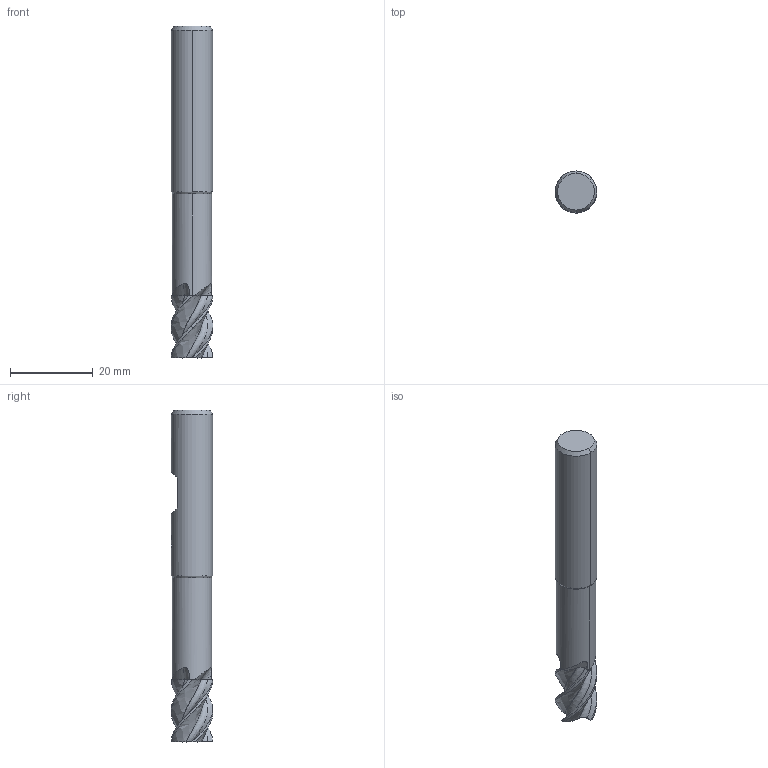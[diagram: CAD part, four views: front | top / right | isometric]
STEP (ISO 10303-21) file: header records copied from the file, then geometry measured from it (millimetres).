
FILE_DESCRIPTION(('no description'),'unknown implementation level');
FILE_NAME('solidTErEhpU3AxotetyNlClLuhps8bc_1.STP',' ',('CIMSOURCE GmbH'),('CADClick - KiM GmbH - www.kimweb.de'),'unknown preprocess','ACIS','unknown authorization');
FILE_SCHEMA(('automotive_design'));
Length unit declared in the file: millimetre
Products named in the file (2): NOCUT; CUT
Bounding box: 10 x 10 x 80 mm (x, y, z)
Volume: 5439.3 mm3; surface area: 3210.5 mm2
Topology: 2 solids, 2 shells, 125 faces, 354 edges, 232 vertices
Faces by surface type: bspline 48, plane 27, cone 22, cylinder 16, revolution 12
Entity records: 24184 total; most frequent: CARTESIAN_POINT 17421, STYLED_ITEM 713, PRESENTATION_STYLE_ASSIGNMENT 713, COLOUR_RGB 713, ORIENTED_EDGE 708, DIRECTION 396, EDGE_CURVE 354, CURVE_STYLE 354
